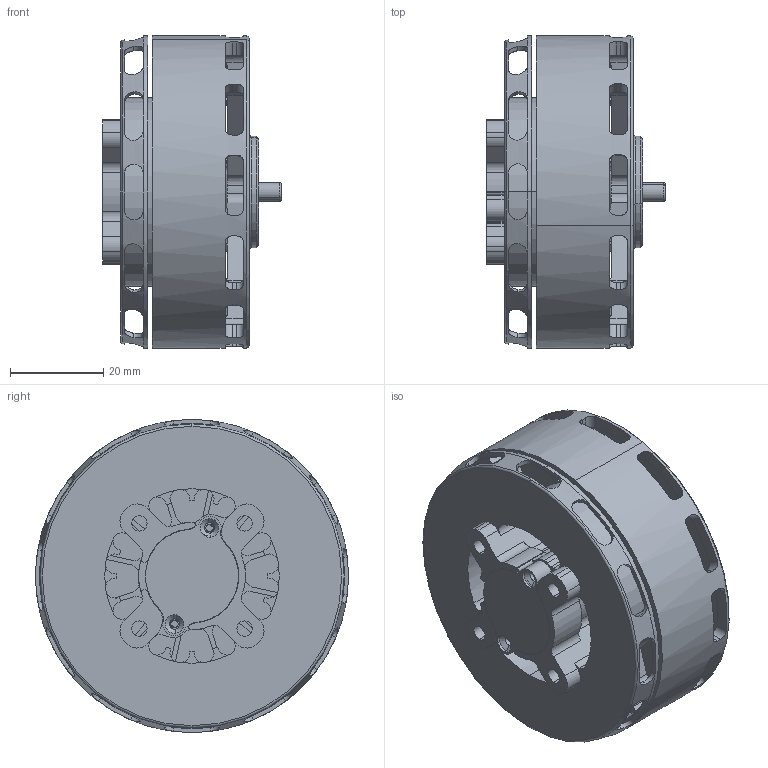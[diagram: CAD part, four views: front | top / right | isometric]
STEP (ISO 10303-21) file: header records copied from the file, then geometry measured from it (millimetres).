
FILE_DESCRIPTION (( 'STEP AP203' ), '1' );
FILE_NAME ('VL6011-ZT-勤俋.STEP', '2024-09-30T07:31:19', ( '' ), ( '' ), 'SwSTEP 2.0', 'SolidWorks 2020', '' );
FILE_SCHEMA (( 'CONFIG_CONTROL_DESIGN' ));
Length unit declared in the file: millimetre
Products named in the file (1): VL6011-ZT-勤俋
Bounding box: 38.4 x 67.2 x 67.2 mm (x, y, z)
Volume: 28137.2 mm3; surface area: 37746.3 mm2
Topology: 1 solids, 5 shells, 1131 faces, 3548 edges, 2259 vertices
Faces by surface type: cylinder 473, plane 372, torus 134, sphere 104, cone 48
Entity records: 45395 total; most frequent: CARTESIAN_POINT 14831, ORIENTED_EDGE 6784, DIRECTION 6254, EDGE_CURVE 3392, AXIS2_PLACEMENT_3D 2520, VERTEX_POINT 2207, CIRCLE 1388, EDGE_LOOP 1225
